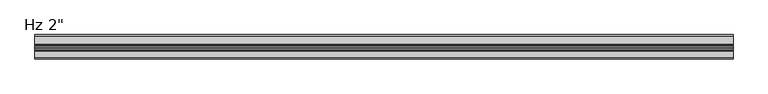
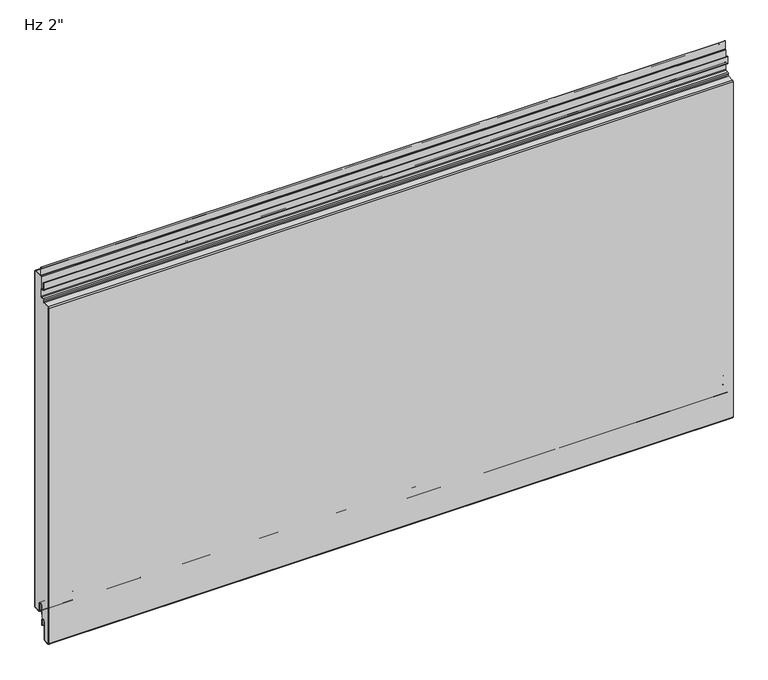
"""IFC4 building model written with IfcOpenShell, lengths in millimetres: plate geometry."""

from ifc_helpers import new_model, si_unit, point, frame, frame_2d, origin, place, context, project, spatial, polyline, circle_curve, ellipse_curve, trimmed, segment, composite_curve, outline, extrude, source, transform, mapped, element, save
from ifc_brep_helpers import plane_surface, cylinder_surface, revolved_surface, extruded_surface, advanced_brep


def plate_e7262bf4(model_context):
    return source(origin(), model_context, "Body", "SolidModel", [
        extrude(outline(composite_curve([segment(polyline([(-22.8125, 716.9620957), (-22.8125, 760.20625), (-2.38125, 760.20625)]), True, "CONTINUOUS"), segment(trimmed(circle_curve(frame_2d((-2.38125, 758.825)), 1.38125), [point((-2.38125, 760.20625))], [point((-1.0, 758.825))], False, "CARTESIAN"), True, "CONTINUOUS"), segment(polyline([(-1.0, 758.825), (-1.0, 3.175)]), True, "CONTINUOUS"), segment(trimmed(circle_curve(frame_2d((-2.38125, 3.175)), 1.38125), [point((-1.0, 3.175))], [point((-2.38125, 1.79375))], False, "CARTESIAN"), True, "CONTINUOUS"), segment(polyline([(-2.38125, 1.79375), (-15.08125, 1.79375)]), True, "CONTINUOUS"), segment(trimmed(circle_curve(frame_2d((-15.08125, 3.175)), 1.38125), [point((-15.08125, 1.79375))], [point((-16.4625, 3.175))], False, "CARTESIAN"), True, "CONTINUOUS"), segment(polyline([(-16.4625, 3.175), (-16.4625, 19.05)]), True, "CONTINUOUS"), segment(trimmed(circle_curve(frame_2d((-21.43125, 19.05)), 4.96875), [point((-16.4625, 19.05))], [point((-26.4, 19.05))], True, "CARTESIAN"), True, "CONTINUOUS"), segment(polyline([(-26.4, 19.05), (-26.4, -6.9375), (-30.95625, -6.9375)]), True, "CONTINUOUS"), segment(trimmed(circle_curve(frame_2d((-30.95625, -11.90625)), 4.96875), [point((-30.95625, -6.9375))], [point((-35.925, -11.90625))], True, "CARTESIAN"), True, "CONTINUOUS"), segment(polyline([(-35.925, -11.90625), (-35.925, -50.0895546)]), True, "CONTINUOUS"), segment(trimmed(circle_curve(frame_2d((-37.30625, -50.0895546)), 1.38125), [point((-35.925, -50.0895546))], [point((-37.233961, -51.4689117))], False, "CARTESIAN"), True, "CONTINUOUS"), segment(polyline([(-37.233961, -51.4689117), (-48.346461, -52.0512931)]), True, "CONTINUOUS"), segment(trimmed(circle_curve(frame_2d((-48.41875, -50.6719361)), 1.38125), [point((-48.346461, -52.0512931))], [point((-49.8, -50.6719361))], False, "CARTESIAN"), True, "CONTINUOUS"), segment(polyline([(-49.8, -50.6719361), (-49.8, 704.9715281)]), True, "CONTINUOUS"), segment(trimmed(circle_curve(frame_2d((-48.41875, 704.9715281)), 1.38125), [point((-49.8, 704.9715281))], [point((-48.491039, 706.3508852))], False, "CARTESIAN"), True, "CONTINUOUS"), segment(polyline([(-48.491039, 706.3508852), (-34.7895807, 707.0689482)]), True, "CONTINUOUS"), segment(trimmed(circle_curve(frame_2d((-34.925, 709.6529021)), 2.5875), [point((-34.7895807, 707.0689482))], [point((-32.3375, 709.6529021))], True, "CARTESIAN"), True, "CONTINUOUS"), segment(polyline([(-32.3375, 709.6529021), (-32.3375, 712.6967085)]), True, "CONTINUOUS"), segment(trimmed(circle_curve(frame_2d((-30.95625, 712.6967085)), 1.38125), [point((-32.3375, 712.6967085))], [point((-31.028539, 714.0760655))], False, "CARTESIAN"), True, "CONTINUOUS"), segment(polyline([(-31.028539, 714.0760655), (-25.2645807, 714.3781418)]), True, "CONTINUOUS"), segment(trimmed(circle_curve(frame_2d((-25.4, 716.9620957)), 2.5875), [point((-25.2645807, 714.3781418))], [point((-22.8125, 716.9620957))], True, "CARTESIAN"), True, "CONTINUOUS")], self_intersect=False)), frame((-730.0, 0.0, 0.0), z_axis=(1.0, 0.0, 0.0), x_axis=(0.0, 1.0, 0.0)), (0.0, 0.0, 1.0), 1460.0),
        extrude(outline(composite_curve([segment(polyline([(-25.4, 0.79375), (-26.4, 0.79375), (-26.4, 19.05)]), True, "CONTINUOUS"), segment(trimmed(circle_curve(frame_2d((-21.43125, 19.05)), 4.96875), [point((-26.4, 19.05))], [point((-16.4625, 19.05))], False, "CARTESIAN"), True, "CONTINUOUS"), segment(polyline([(-16.4625, 19.05), (-16.4625, 3.175)]), True, "CONTINUOUS"), segment(trimmed(circle_curve(frame_2d((-15.08125, 3.175)), 1.38125), [point((-16.4625, 3.175))], [point((-15.08125, 1.79375))], True, "CARTESIAN"), True, "CONTINUOUS"), segment(polyline([(-15.08125, 1.79375), (-2.38125, 1.79375)]), True, "CONTINUOUS"), segment(trimmed(circle_curve(frame_2d((-2.38125, 3.175)), 1.38125), [point((-2.38125, 1.79375))], [point((-1.0, 3.175))], True, "CARTESIAN"), True, "CONTINUOUS"), segment(polyline([(-1.0, 3.175), (-1.0, 758.825)]), True, "CONTINUOUS"), segment(trimmed(circle_curve(frame_2d((-2.38125, 758.825)), 1.38125), [point((-1.0, 758.825))], [point((-2.38125, 760.20625))], True, "CARTESIAN"), True, "CONTINUOUS"), segment(polyline([(-2.38125, 760.20625), (-19.446875, 760.20625)]), True, "CONTINUOUS"), segment(trimmed(circle_curve(frame_2d((-19.446875, 762.79375)), 2.5875), [point((-19.446875, 760.20625))], [point((-22.034375, 762.79375))], False, "CARTESIAN"), True, "CONTINUOUS"), segment(polyline([(-22.034375, 762.79375), (-22.034375, 780.25625), (-21.034375, 780.25625), (-21.034375, 762.79375)]), True, "CONTINUOUS"), segment(trimmed(circle_curve(frame_2d((-19.446875, 762.79375)), 1.5875), [point((-21.034375, 762.79375))], [point((-19.446875, 761.20625))], True, "CARTESIAN"), True, "CONTINUOUS"), segment(polyline([(-19.446875, 761.20625), (-2.38125, 761.20625)]), True, "CONTINUOUS"), segment(trimmed(circle_curve(frame_2d((-2.38125, 758.825)), 2.38125), [point((-2.38125, 761.20625))], [point((0.0, 758.825))], False, "CARTESIAN"), True, "CONTINUOUS"), segment(polyline([(0.0, 758.825), (0.0, 3.175)]), True, "CONTINUOUS"), segment(trimmed(circle_curve(frame_2d((-2.38125, 3.175)), 2.38125), [point((0.0, 3.175))], [point((-2.38125, 0.79375))], False, "CARTESIAN"), True, "CONTINUOUS"), segment(polyline([(-2.38125, 0.79375), (-15.08125, 0.79375)]), True, "CONTINUOUS"), segment(trimmed(circle_curve(frame_2d((-15.08125, 3.175)), 2.38125), [point((-15.08125, 0.79375))], [point((-17.4625, 3.175))], False, "CARTESIAN"), True, "CONTINUOUS"), segment(polyline([(-17.4625, 3.175), (-17.4625, 19.05)]), True, "CONTINUOUS"), segment(trimmed(circle_curve(frame_2d((-21.43125, 19.05)), 3.96875), [point((-17.4625, 19.05))], [point((-25.4, 19.05))], True, "CARTESIAN"), True, "CONTINUOUS"), segment(polyline([(-25.4, 19.05), (-25.4, 0.79375)]), True, "CONTINUOUS")], self_intersect=False)), frame((-730.0, 0.0, 0.0), z_axis=(1.0, 0.0, 0.0), x_axis=(0.0, 1.0, 0.0)), (0.0, 0.0, 1.0), 1460.0),
        advanced_brep(
        [(-730.0, -25.4, -23.2314549), (-730.0, -26.9875, -23.2314549), (-730.0, -26.9875, -11.9205174), (-730.0, -34.925, -11.9205174), (-730.0, -34.925, -50.1038221), (-730.0, -37.181625, -52.4818086), (-730.0, -48.294125, -53.0641901), (-730.0, -50.8, -50.6862035), (-730.0, -50.8, 704.9572607), (-730.0, -48.543375, 707.3352473), (-730.0, -34.8419167, 708.0533103), (-730.0, -33.3375, 709.6386347), (-730.0, -33.3375, 712.6824411), (-730.0, -31.080875, 715.0604276), (-730.0, -25.3169167, 715.3625039), (-730.0, -23.8125, 716.9478283), (-730.0, -23.8125, 731.8232326), (-730.0, -25.4, 733.4107326), (-730.0, -29.5671875, 733.4107326), (-730.0, -31.9484375, 735.7919826), (-730.0, -31.9484375, 750.2836032), (-730.0, -30.1546875, 750.2836032), (-730.0, -30.1546875, 740.5544826), (-730.0, -30.9484375, 740.5544826), (-730.0, -30.9484375, 735.7919826), (-730.0, -29.5671875, 734.4107326), (-730.0, -25.4, 734.4107326), (-730.0, -22.8125, 731.8232326), (-730.0, -22.8125, 716.9478283), (-730.0, -25.2645807, 714.3638744), (-730.0, -31.028539, 714.0617981), (-730.0, -32.3375, 712.6824411), (-730.0, -32.3375, 709.6386347), (-730.0, -34.7895807, 707.0546807), (-730.0, -48.491039, 706.3366177), (-730.0, -49.8, 704.9572607), (-730.0, -49.8, -50.6862035), (-730.0, -48.346461, -52.0655606), (-730.0, -37.233961, -51.4831791), (-730.0, -35.925, -50.1038221), (-730.0, -35.925, -11.9205174), (-730.0, -25.9875, -11.9205174), (-730.0, -26.19375, -13.5080174), (-730.0, -25.4, -13.5080174), (730.0, -25.4, -23.2314549), (730.0, -25.4, -13.5080174), (730.0, -26.19375, -13.5080174), (730.0, -25.9875, -11.9205174), (730.0, -35.925, -11.9205174), (730.0, -35.925, -50.1038221), (730.0, -37.233961, -51.4831791), (730.0, -48.346461, -52.0655606), (730.0, -49.8, -50.6862035), (730.0, -49.8, 704.9572607), (730.0, -48.491039, 706.3366177), (730.0, -34.7895807, 707.0546807), (730.0, -32.3375, 709.6386347), (730.0, -32.3375, 712.6824411), (730.0, -31.028539, 714.0617981), (730.0, -25.2645807, 714.3638744), (730.0, -22.8125, 716.9478283), (730.0, -22.8125, 731.8232326), (730.0, -25.4, 734.4107326), (730.0, -29.5671875, 734.4107326), (730.0, -30.9484375, 735.7919826), (730.0, -30.9484375, 740.5544826), (730.0, -30.1546875, 740.5544826), (730.0, -30.1546875, 750.2836032), (730.0, -31.9484375, 750.2836032), (730.0, -31.9484375, 735.7919826), (730.0, -29.5671875, 733.4107326), (730.0, -25.4, 733.4107326), (730.0, -23.8125, 731.8232326), (730.0, -23.8125, 716.9478283), (730.0, -25.3169167, 715.3625039), (730.0, -31.080875, 715.0604276), (730.0, -33.3375, 712.6824411), (730.0, -33.3375, 709.6386347), (730.0, -34.8419167, 708.0533103), (730.0, -48.543375, 707.3352473), (730.0, -50.8, 704.9572607), (730.0, -50.8, -50.6862035), (730.0, -48.294125, -53.0641901), (730.0, -37.181625, -52.4818086), (730.0, -34.925, -50.1038221), (730.0, -34.925, -11.9205174), (730.0, -26.9875, -11.9205174), (730.0, -26.9875, -23.2314549)],
        [
            (0, 1, circle_curve(frame((-730.0, -26.19375, -23.2314549), z_axis=(-1.0, 0.0, 0.0), x_axis=(0.0, 0.0, 1.0)), 0.79375)),
            (1, 2),
            (2, 3, circle_curve(frame((-730.0, -30.95625, -11.9205174), z_axis=(1.0, 0.0, 0.0), x_axis=(0.0, 0.0, 1.0)), 3.96875)),
            (3, 4),
            (4, 5, circle_curve(frame((-730.0, -37.30625, -50.1038221), z_axis=(-1.0, 0.0, 0.0), x_axis=(0.0, 0.0, 1.0)), 2.38125)),
            (5, 6),
            (6, 7, circle_curve(frame((-730.0, -48.41875, -50.6862035), z_axis=(-1.0, 0.0, 0.0), x_axis=(0.0, 0.0, 1.0)), 2.38125)),
            (7, 8),
            (8, 9, circle_curve(frame((-730.0, -48.41875, 704.9572607), z_axis=(-1.0, 0.0, 0.0), x_axis=(0.0, 0.0, 1.0)), 2.38125)),
            (9, 10),
            (10, 11, circle_curve(frame((-730.0, -34.925, 709.6386347), z_axis=(1.0, 0.0, 0.0), x_axis=(0.0, 0.0, 1.0)), 1.5875)),
            (11, 12),
            (12, 13, circle_curve(frame((-730.0, -30.95625, 712.6824411), z_axis=(-1.0, 0.0, 0.0), x_axis=(0.0, 0.0, 1.0)), 2.38125)),
            (13, 14),
            (14, 15, circle_curve(frame((-730.0, -25.4, 716.9478283), z_axis=(1.0, 0.0, 0.0), x_axis=(0.0, 0.0, 1.0)), 1.5875)),
            (15, 16),
            (16, 17, circle_curve(frame((-730.0, -25.4, 731.8232326), z_axis=(1.0, 0.0, 0.0), x_axis=(0.0, 0.0, 1.0)), 1.5875)),
            (17, 18),
            (18, 19, circle_curve(frame((-730.0, -29.5671875, 735.7919826), z_axis=(-1.0, 0.0, 0.0), x_axis=(0.0, 0.0, 1.0)), 2.38125)),
            (19, 20),
            (20, 21, ellipse_curve(frame((-730.0, -31.0515625, 750.2836032), z_axis=(-1.0, 0.0, 0.0), x_axis=(0.0, 1.0, 0.0)), 0.896875, 0.7852275)),
            (21, 22),
            (22, 23),
            (23, 24),
            (24, 25, circle_curve(frame((-730.0, -29.5671875, 735.7919826), z_axis=(1.0, 0.0, 0.0), x_axis=(0.0, 0.0, 1.0)), 1.38125)),
            (25, 26),
            (26, 27, circle_curve(frame((-730.0, -25.4, 731.8232326), z_axis=(-1.0, 0.0, 0.0), x_axis=(0.0, 0.0, 1.0)), 2.5875)),
            (27, 28),
            (28, 29, circle_curve(frame((-730.0, -25.4, 716.9478283), z_axis=(-1.0, 0.0, 0.0), x_axis=(0.0, 0.0, 1.0)), 2.5875)),
            (29, 30),
            (30, 31, circle_curve(frame((-730.0, -30.95625, 712.6824411), z_axis=(1.0, 0.0, 0.0), x_axis=(0.0, 0.0, 1.0)), 1.38125)),
            (31, 32),
            (32, 33, circle_curve(frame((-730.0, -34.925, 709.6386347), z_axis=(-1.0, 0.0, 0.0), x_axis=(0.0, 0.0, 1.0)), 2.5875)),
            (33, 34),
            (34, 35, circle_curve(frame((-730.0, -48.41875, 704.9572607), z_axis=(1.0, 0.0, 0.0), x_axis=(0.0, 0.0, 1.0)), 1.38125)),
            (35, 36),
            (36, 37, circle_curve(frame((-730.0, -48.41875, -50.6862035), z_axis=(1.0, 0.0, 0.0), x_axis=(0.0, 0.0, 1.0)), 1.38125)),
            (37, 38),
            (38, 39, circle_curve(frame((-730.0, -37.30625, -50.1038221), z_axis=(1.0, 0.0, 0.0), x_axis=(0.0, 0.0, 1.0)), 1.38125)),
            (39, 40),
            (40, 41, circle_curve(frame((-730.0, -30.95625, -11.9205174), z_axis=(-1.0, 0.0, 0.0), x_axis=(0.0, 0.0, 1.0)), 4.96875)),
            (41, 42),
            (42, 43),
            (43, 0),
            (44, 45),
            (45, 46),
            (46, 47),
            (47, 48, circle_curve(frame((730.0, -30.95625, -11.9205174), z_axis=(1.0, 0.0, 0.0), x_axis=(0.0, 0.0, 1.0)), 4.96875)),
            (48, 49),
            (49, 50, circle_curve(frame((730.0, -37.30625, -50.1038221), z_axis=(-1.0, 0.0, 0.0), x_axis=(0.0, 0.0, 1.0)), 1.38125)),
            (50, 51),
            (51, 52, circle_curve(frame((730.0, -48.41875, -50.6862035), z_axis=(-1.0, 0.0, 0.0), x_axis=(0.0, 0.0, 1.0)), 1.38125)),
            (52, 53),
            (53, 54, circle_curve(frame((730.0, -48.41875, 704.9572607), z_axis=(-1.0, 0.0, 0.0), x_axis=(0.0, 0.0, 1.0)), 1.38125)),
            (54, 55),
            (55, 56, circle_curve(frame((730.0, -34.925, 709.6386347), z_axis=(1.0, 0.0, 0.0), x_axis=(0.0, 0.0, 1.0)), 2.5875)),
            (56, 57),
            (57, 58, circle_curve(frame((730.0, -30.95625, 712.6824411), z_axis=(-1.0, 0.0, 0.0), x_axis=(0.0, 0.0, 1.0)), 1.38125)),
            (58, 59),
            (59, 60, circle_curve(frame((730.0, -25.4, 716.9478283), z_axis=(1.0, 0.0, 0.0), x_axis=(0.0, 0.0, 1.0)), 2.5875)),
            (60, 61),
            (61, 62, circle_curve(frame((730.0, -25.4, 731.8232326), z_axis=(1.0, 0.0, 0.0), x_axis=(0.0, 0.0, 1.0)), 2.5875)),
            (62, 63),
            (63, 64, circle_curve(frame((730.0, -29.5671875, 735.7919826), z_axis=(-1.0, 0.0, 0.0), x_axis=(0.0, 0.0, 1.0)), 1.38125)),
            (64, 65),
            (65, 66),
            (66, 67),
            (67, 68, ellipse_curve(frame((730.0, -31.0515625, 750.2836032), z_axis=(1.0, 0.0, 0.0), x_axis=(0.0, 1.0, 0.0)), 0.896875, 0.7852275)),
            (68, 69),
            (69, 70, circle_curve(frame((730.0, -29.5671875, 735.7919826), z_axis=(1.0, 0.0, 0.0), x_axis=(0.0, 0.0, 1.0)), 2.38125)),
            (70, 71),
            (71, 72, circle_curve(frame((730.0, -25.4, 731.8232326), z_axis=(-1.0, 0.0, 0.0), x_axis=(0.0, 0.0, 1.0)), 1.5875)),
            (72, 73),
            (73, 74, circle_curve(frame((730.0, -25.4, 716.9478283), z_axis=(-1.0, 0.0, 0.0), x_axis=(0.0, 0.0, 1.0)), 1.5875)),
            (74, 75),
            (75, 76, circle_curve(frame((730.0, -30.95625, 712.6824411), z_axis=(1.0, 0.0, 0.0), x_axis=(0.0, 0.0, 1.0)), 2.38125)),
            (76, 77),
            (77, 78, circle_curve(frame((730.0, -34.925, 709.6386347), z_axis=(-1.0, 0.0, 0.0), x_axis=(0.0, 0.0, 1.0)), 1.5875)),
            (78, 79),
            (79, 80, circle_curve(frame((730.0, -48.41875, 704.9572607), z_axis=(1.0, 0.0, 0.0), x_axis=(0.0, 0.0, 1.0)), 2.38125)),
            (80, 81),
            (81, 82, circle_curve(frame((730.0, -48.41875, -50.6862035), z_axis=(1.0, 0.0, 0.0), x_axis=(0.0, 0.0, 1.0)), 2.38125)),
            (82, 83),
            (83, 84, circle_curve(frame((730.0, -37.30625, -50.1038221), z_axis=(1.0, 0.0, 0.0), x_axis=(0.0, 0.0, 1.0)), 2.38125)),
            (84, 85),
            (85, 86, circle_curve(frame((730.0, -30.95625, -11.9205174), z_axis=(-1.0, 0.0, 0.0), x_axis=(0.0, 0.0, 1.0)), 3.96875)),
            (86, 87),
            (87, 44, circle_curve(frame((730.0, -26.19375, -23.2314549), z_axis=(1.0, 0.0, 0.0), x_axis=(0.0, 0.0, 1.0)), 0.79375)),
            (23, 65),
            (64, 24),
            (28, 60),
            (59, 29),
            (58, 30),
            (57, 31),
            (56, 32),
            (55, 33),
            (54, 34),
            (53, 35),
            (52, 36),
            (51, 37),
            (50, 38),
            (49, 39),
            (48, 40),
            (43, 45),
            (44, 0),
            (87, 1),
            (86, 2),
            (85, 3),
            (84, 4),
            (83, 5),
            (82, 6),
            (81, 7),
            (80, 8),
            (79, 9),
            (78, 10),
            (77, 11),
            (76, 12),
            (75, 13),
            (74, 14),
            (73, 15),
            (72, 16),
            (71, 17),
            (70, 18),
            (69, 19),
            (68, 20),
            (27, 61),
            (26, 62),
            (25, 63),
            (21, 67),
            (66, 22),
            (41, 47),
            (46, 42),
        ],
        [
            plane_surface(frame((-730.0, -50.8, 381.0), z_axis=(-1.0, 0.0, 0.0), x_axis=(0.0, -1.0, 0.0))),
            plane_surface(frame((730.0, -50.8, 381.0), z_axis=(1.0, 0.0, 0.0), x_axis=(0.0, -1.0, 0.0))),
            plane_surface(frame((-730.0, -30.9484375, 735.7919826), z_axis=(0.0, 1.0, 0.0), x_axis=(1.0, 0.0, 0.0))),
            cylinder_surface(frame((-730.0, -25.4, 716.9478283), z_axis=(-1.0, 0.0, 0.0), x_axis=(0.0, 0.0, 1.0)), 2.5875),
            plane_surface(frame((-730.0, -31.028539, 714.0617981), z_axis=(0.0, 0.0523359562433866, -0.9986295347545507), x_axis=(1.0, 0.0, 0.0))),
            revolved_surface(polyline([(730.0, -30.95625, 714.0636911), (-730.0, -30.95625, 714.0636911)]), (-730.0, -30.95625, 712.6824411), (1.0, 0.0, 0.0)),
            plane_surface(frame((-730.0, -32.3375, 709.6386347), z_axis=(0.0, 1.0, 0.0), x_axis=(1.0, 0.0, 0.0))),
            cylinder_surface(frame((-730.0, -34.925, 709.6386347), z_axis=(-1.0, 0.0, 0.0), x_axis=(0.0, 0.0, 1.0)), 2.5875),
            plane_surface(frame((-730.0, -48.491039, 706.3366177), z_axis=(0.0, 0.05233595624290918, -0.9986295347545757), x_axis=(1.0, 0.0, 0.0))),
            revolved_surface(polyline([(730.0, -48.41875, 706.3385107), (-730.0, -48.41875, 706.3385107)]), (-730.0, -48.41875, 704.9572607), (1.0, 0.0, 0.0)),
            plane_surface(frame((-730.0, -49.8, -50.6862035), z_axis=(0.0, 1.0, 0.0), x_axis=(1.0, 0.0, 0.0))),
            revolved_surface(polyline([(730.0, -48.41875, -49.304953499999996), (-730.0, -48.41875, -49.304953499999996)]), (-730.0, -48.41875, -50.6862035), (1.0, 0.0, 0.0)),
            plane_surface(frame((-730.0, -37.233961, -51.4831791), z_axis=(0.0, -0.05233595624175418, 0.9986295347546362), x_axis=(1.0, 0.0, 0.0))),
            revolved_surface(polyline([(730.0, -37.30625, -48.7225721), (-730.0, -37.30625, -48.7225721)]), (-730.0, -37.30625, -50.1038221), (1.0, 0.0, 0.0)),
            plane_surface(frame((-730.0, -35.925, -11.9205174), z_axis=(0.0, -1.0, 0.0), x_axis=(1.0, 0.0, 0.0))),
            plane_surface(frame((-730.0, -25.4, -23.2314549), z_axis=(0.0, 1.0, 0.0), x_axis=(1.0, 0.0, 0.0))),
            cylinder_surface(frame((-730.0, -26.19375, -23.2314549), z_axis=(-1.0, 0.0, 0.0), x_axis=(0.0, 0.0, 1.0)), 0.79375),
            plane_surface(frame((-730.0, -26.9875, -11.9205174), z_axis=(0.0, -1.0, 0.0), x_axis=(1.0, 0.0, 0.0))),
            revolved_surface(polyline([(730.0, -30.95625, -7.9517674), (-730.0, -30.95625, -7.9517674)]), (-730.0, -30.95625, -11.9205174), (1.0, 0.0, 0.0)),
            plane_surface(frame((-730.0, -34.925, -50.1038221), z_axis=(0.0, 1.0, 0.0), x_axis=(1.0, 0.0, 0.0))),
            cylinder_surface(frame((-730.0, -37.30625, -50.1038221), z_axis=(-1.0, 0.0, 0.0), x_axis=(0.0, 0.0, 1.0)), 2.38125),
            plane_surface(frame((-730.0, -48.294125, -53.0641901), z_axis=(0.0, 0.05233595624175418, -0.9986295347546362), x_axis=(1.0, 0.0, 0.0))),
            cylinder_surface(frame((-730.0, -48.41875, -50.6862035), z_axis=(-1.0, 0.0, 0.0), x_axis=(0.0, 0.0, 1.0)), 2.38125),
            plane_surface(frame((-730.0, -50.8, 704.9572607), z_axis=(0.0, -1.0, 0.0), x_axis=(1.0, 0.0, 0.0))),
            cylinder_surface(frame((-730.0, -48.41875, 704.9572607), z_axis=(-1.0, 0.0, 0.0), x_axis=(0.0, 0.0, 1.0)), 2.38125),
            plane_surface(frame((-730.0, -34.8419167, 708.0533103), z_axis=(0.0, -0.052335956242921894, 0.998629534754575), x_axis=(1.0, 0.0, 0.0))),
            revolved_surface(polyline([(730.0, -34.925, 711.2261347), (-730.0, -34.925, 711.2261347)]), (-730.0, -34.925, 709.6386347), (1.0, 0.0, 0.0)),
            plane_surface(frame((-730.0, -33.3375, 712.6824411), z_axis=(0.0, -1.0, 0.0), x_axis=(1.0, 0.0, 0.0))),
            cylinder_surface(frame((-730.0, -30.95625, 712.6824411), z_axis=(-1.0, 0.0, 0.0), x_axis=(0.0, 0.0, 1.0)), 2.38125),
            plane_surface(frame((-730.0, -25.3169167, 715.3625039), z_axis=(0.0, -0.05233595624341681, 0.9986295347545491), x_axis=(1.0, 0.0, 0.0))),
            revolved_surface(polyline([(730.0, -25.4, 718.5353283), (-730.0, -25.4, 718.5353283)]), (-730.0, -25.4, 716.9478283), (1.0, 0.0, 0.0)),
            plane_surface(frame((-730.0, -23.8125, 731.8232326), z_axis=(0.0, -1.0, 0.0), x_axis=(1.0, 0.0, 0.0))),
            revolved_surface(polyline([(730.0, -25.4, 733.4107326), (-730.0, -25.4, 733.4107326)]), (-730.0, -25.4, 731.8232326), (1.0, 0.0, 0.0)),
            plane_surface(frame((-730.0, -29.5671875, 733.4107326), z_axis=(0.0, 0.0, -1.0), x_axis=(1.0, 0.0, 0.0))),
            cylinder_surface(frame((-730.0, -29.5671875, 735.7919826), z_axis=(-1.0, 0.0, 0.0), x_axis=(0.0, 0.0, 1.0)), 2.38125),
            plane_surface(frame((-730.0, -31.9484375, 750.2836032), z_axis=(0.0, -1.0, 0.0), x_axis=(1.0, 0.0, 0.0))),
            plane_surface(frame((-730.0, -22.8125, 716.9478283), z_axis=(0.0, 1.0, 0.0), x_axis=(1.0, 0.0, 0.0))),
            cylinder_surface(frame((-730.0, -25.4, 731.8232326), z_axis=(-1.0, 0.0, 0.0), x_axis=(0.0, 0.0, 1.0)), 2.5875),
            plane_surface(frame((-730.0, -25.4, 734.4107326), z_axis=(0.0, 0.0, 1.0), x_axis=(1.0, 0.0, 0.0))),
            revolved_surface(polyline([(730.0, -29.5671875, 737.1732326), (-730.0, -29.5671875, 737.1732326)]), (-730.0, -29.5671875, 735.7919826), (1.0, 0.0, 0.0)),
            plane_surface(frame((-730.0, -30.1546875, 740.5544826), z_axis=(0.0, 1.0, 0.0), x_axis=(1.0, 0.0, 0.0))),
            extruded_surface(trimmed(ellipse_curve(frame((-730.0, -31.0515625, 750.2836032), z_axis=(1.0, 0.0, 0.0), x_axis=(0.0, 1.0, 0.0)), 0.896875, 0.7852275), [point((-730.0, -30.1546875, 750.2836032))], [point((-730.0, -31.9484375, 750.2836032))], True, "CARTESIAN"), (1460.0, 0.0, 0.0), 1460.0),
            plane_surface(frame((-730.0, -26.19375, -13.5080174), z_axis=(0.0, 0.9916655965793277, -0.12883844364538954), x_axis=(1.0, 0.0, 0.0))),
            cylinder_surface(frame((-730.0, -30.95625, -11.9205174), z_axis=(-1.0, 0.0, 0.0), x_axis=(0.0, 0.0, 1.0)), 4.96875),
            plane_surface(frame((-730.0, -25.4, -13.5080174), z_axis=(0.0, 0.0, 1.0), x_axis=(1.0, 0.0, 0.0))),
            plane_surface(frame((-730.0, -30.9484375, 740.5544826), z_axis=(0.0, 0.0, -1.0), x_axis=(1.0, 0.0, 0.0))),
        ],
        [
            (0, [[1, 2, 3, 4, 5, 6, 7, 8, 9, 10, 11, 12, 13, 14, 15, 16, 17, 18, 19, 20, 21, 22, 23, 24, 25, 26, 27, 28, 29, 30, 31, 32, 33, 34, 35, 36, 37, 38, 39, 40, 41, 42, 43, 44]]),
            (1, [[45, 46, 47, 48, 49, 50, 51, 52, 53, 54, 55, 56, 57, 58, 59, 60, 61, 62, 63, 64, 65, 66, 67, 68, 69, 70, 71, 72, 73, 74, 75, 76, 77, 78, 79, 80, 81, 82, 83, 84, 85, 86, 87, 88]]),
            (2, [[89, -65, 90, -24]]),
            (3, [[91, -60, 92, -29]]),
            (4, [[-92, -59, 93, -30]]),
            (5, [[-93, -58, 94, -31]]),
            (6, [[-94, -57, 95, -32]]),
            (7, [[-95, -56, 96, -33]]),
            (8, [[-96, -55, 97, -34]]),
            (9, [[-97, -54, 98, -35]]),
            (10, [[-98, -53, 99, -36]]),
            (11, [[-99, -52, 100, -37]]),
            (12, [[-100, -51, 101, -38]]),
            (13, [[-101, -50, 102, -39]]),
            (14, [[-102, -49, 103, -40]]),
            (15, [[104, -45, 105, -44]]),
            (16, [[-105, -88, 106, -1]]),
            (17, [[-106, -87, 107, -2]]),
            (18, [[-107, -86, 108, -3]]),
            (19, [[-108, -85, 109, -4]]),
            (20, [[-109, -84, 110, -5]]),
            (21, [[-110, -83, 111, -6]]),
            (22, [[-111, -82, 112, -7]]),
            (23, [[-112, -81, 113, -8]]),
            (24, [[-113, -80, 114, -9]]),
            (25, [[-114, -79, 115, -10]]),
            (26, [[-115, -78, 116, -11]]),
            (27, [[-116, -77, 117, -12]]),
            (28, [[-117, -76, 118, -13]]),
            (29, [[-118, -75, 119, -14]]),
            (30, [[-119, -74, 120, -15]]),
            (31, [[-120, -73, 121, -16]]),
            (32, [[-121, -72, 122, -17]]),
            (33, [[-122, -71, 123, -18]]),
            (34, [[-123, -70, 124, -19]]),
            (35, [[-124, -69, 125, -20]]),
            (36, [[126, -61, -91, -28]]),
            (37, [[127, -62, -126, -27]]),
            (38, [[128, -63, -127, -26]]),
            (39, [[-90, -64, -128, -25]]),
            (40, [[129, -67, 130, -22]]),
            (41, [[-125, -68, -129, -21]]),
            (42, [[131, -47, 132, -42]]),
            (43, [[-103, -48, -131, -41]]),
            (44, [[-132, -46, -104, -43]]),
            (45, [[-130, -66, -89, -23]]),
        ],
    ),
    ])


if __name__ == "__main__":
    model = new_model("IFC4")
    model_context = context("Model", 3, world=origin())
    ifc_project = project(units=[si_unit("LENGTHUNIT", "METRE", prefix="MILLI")], contexts=[model_context])
    site = spatial("IfcSite", under=ifc_project)
    building = spatial("IfcBuilding", under=site)
    placement = place(None, origin())
    plate_shape = plate_e7262bf4(model_context)
    element("IfcPlate", 1, ObjectType="KIP-30-DWTR-R19-CP-Hz-F : Hz 2\"", at=placement, inside=building, context=model_context, shape_type="MappedRepresentation", body=[
        mapped(plate_shape, transform((0.0, 0.0, 0.0), x_axis=(1.0, 0.0, 0.0), y_axis=(0.0, 1.0, 0.0), z_axis=(0.0, 0.0, 1.0))),
    ])
    save(model, "model.ifc")
